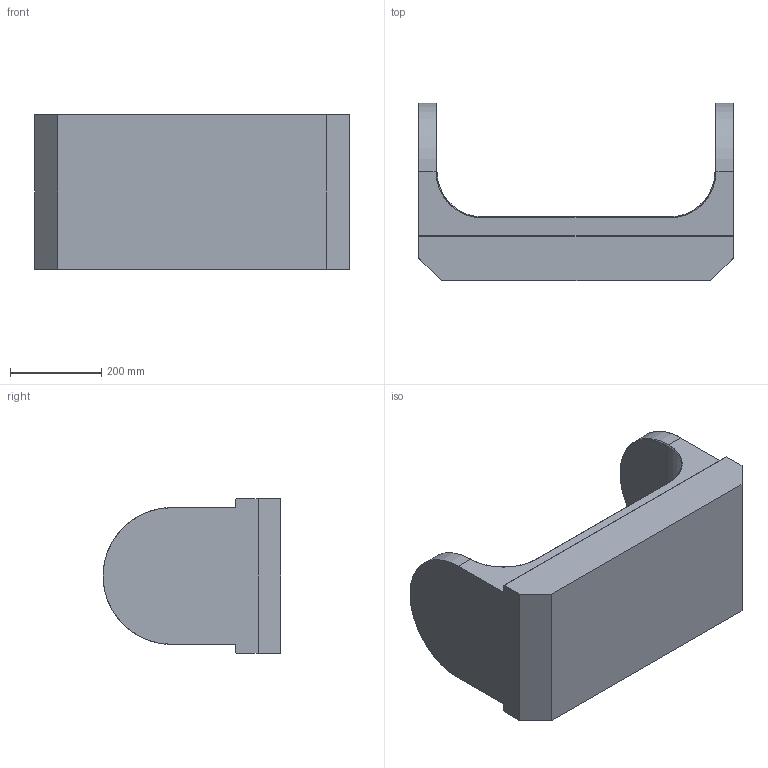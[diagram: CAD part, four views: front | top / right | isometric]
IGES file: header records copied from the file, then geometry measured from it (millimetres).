
Start section: SolidWorks IGES file using analytic representation for surfaces
Global section: file name: J:\Scolaire\BAC Pro\Epreuves professionnelles\E2\CD\Dossier Examinateurs\Dessins CN 5 axes\IGES\table.IGS; native system: SolidWorks 2005 by SolidWorks Corporation; preprocessor: SolidWorks 2005 by SolidWorks Corporation; author: Famille Couzi; date: 091204.123353; units: millimetre
Bounding box: 690 x 390 x 340 mm (x, y, z)
Surface area: 1009390.3 mm2 (no closed solid volume)
Topology: 0 solids, 0 shells, 38 faces, 604 edges, 604 vertices
Faces by surface type: bspline 20, revolution 18
